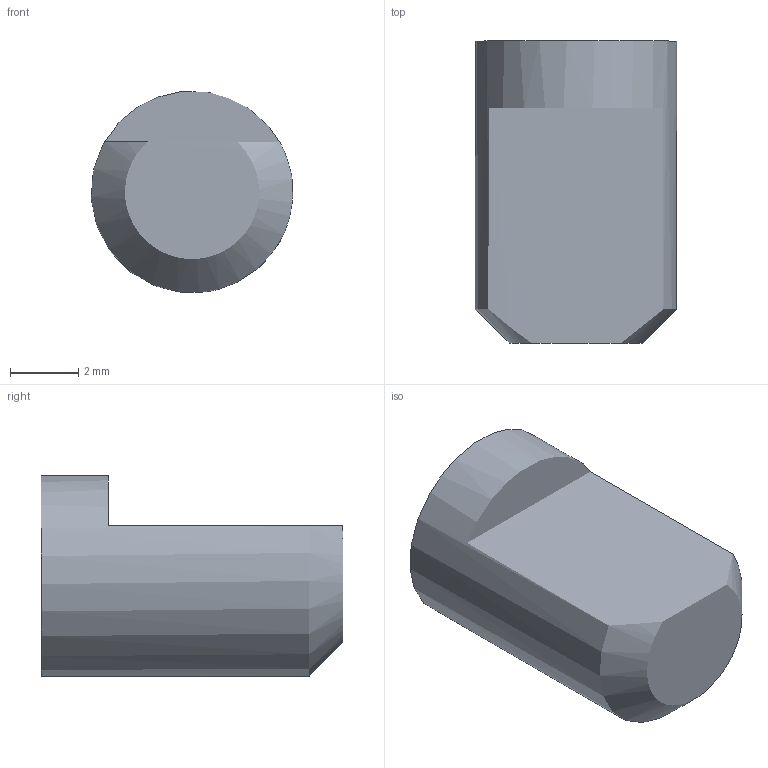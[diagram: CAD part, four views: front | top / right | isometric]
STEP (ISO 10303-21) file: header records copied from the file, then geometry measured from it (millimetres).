
FILE_DESCRIPTION(/* description */ ('STEP AP242 Edition 2','CAx-IF Rec.Pracs.---Representation and Presentation of Product Manufacturing Information (PMI)---4.0---2014-10-13','CAx-IF Rec.Pracs.---3D Tessellated Geometry---0.4---2014-09-14','2;1','CAx-IF Rec.Pracs.---User Defined Attributes---1.5---2016-08-15'),/* implementation_level */ '2;1');
FILE_NAME(/* name */ 'Assembly 1 - Part 15',/* time_stamp */ '2026-03-29T21:14:57Z',/* author */ (''),/* organization */ (''),/* preprocessor_version */ 'ST-DEVELOPER v20',/* originating_system */ 'ONSHAPE BY PTC INC, 1.212',/* authorisation */ ' ');
FILE_SCHEMA (('AP242_MANAGED_MODEL_BASED_3D_ENGINEERING_MIM_LF { 1 0 10303 442 3 1 4 }'));
Length unit declared in the file: metre
Products named in the file (1): Part 15
Bounding box: 5.91 x 8.86 x 5.89 mm (x, y, z)
Surface area: 202.4 mm2 (no closed solid volume)
Topology: 0 solids, 1 shells, 1 faces, 0 edges, 0 vertices
Faces by surface type: other 1
Entity records: 31 total; most frequent: DIRECTION 2, SHAPE_REPRESENTATION_RELATIONSHIP 1, TESSELLATED_SHAPE_REPRESENTATION 1, STYLED_ITEM 1, PRESENTATION_STYLE_ASSIGNMENT 1, SURFACE_STYLE_USAGE 1, SURFACE_SIDE_STYLE 1, SURFACE_STYLE_FILL_AREA 1
